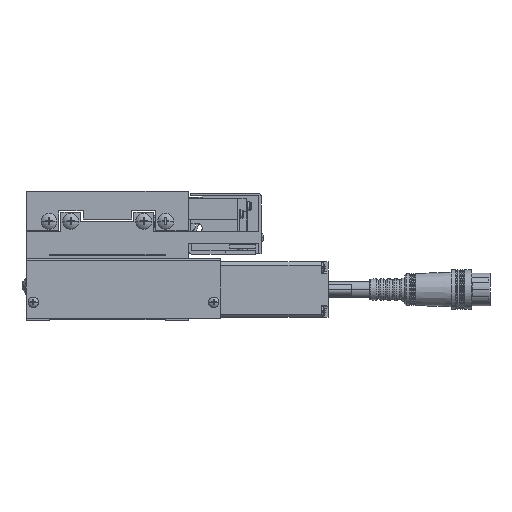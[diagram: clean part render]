
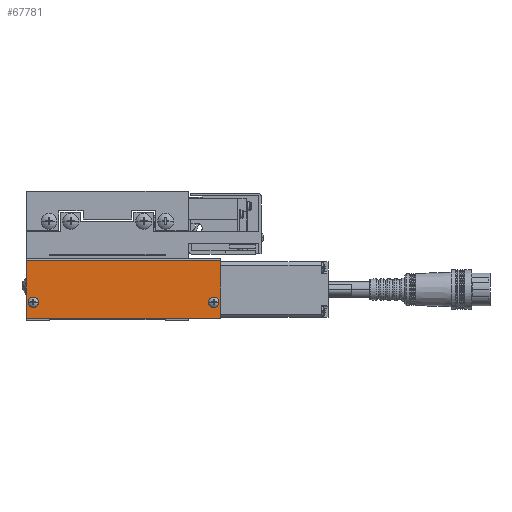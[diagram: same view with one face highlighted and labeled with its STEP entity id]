
A CAD part, front view. The second image highlights one B-rep face of the part: STEP entity #67781.
In plain terms, the highlighted planar face has unit normal (0, -1, 0) as drawn and (0, 1, 0) by its records, which use the part's own axes.
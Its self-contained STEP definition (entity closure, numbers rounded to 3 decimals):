
#133 = EDGE_LOOP ( 'NONE', ( #16907, #13809 ) ) ;
#610 = CIRCLE ( 'NONE', #32411, 2.25 ) ;
#2320 = VERTEX_POINT ( 'NONE', #5377 ) ;
#2431 = LINE ( 'NONE', #9825, #34398 ) ;
#4210 = DIRECTION ( 'NONE',  ( 0., 0., -1. ) ) ;
#4522 = CARTESIAN_POINT ( 'NONE',  ( 106.878, 95.741, 20.571 ) ) ;
#5377 = CARTESIAN_POINT ( 'NONE',  ( 106.128, 95.741, 1.571 ) ) ;
#6789 = CARTESIAN_POINT ( 'NONE',  ( 22.878, 95.741, -5.429 ) ) ;
#8030 = CARTESIAN_POINT ( 'NONE',  ( 106.878, 95.741, 19.571 ) ) ;
#9577 = EDGE_CURVE ( 'NONE', #61785, #39713, #2431, .T. ) ;
#9825 = CARTESIAN_POINT ( 'NONE',  ( 22.878, 95.741, 20.571 ) ) ;
#11272 = FACE_BOUND ( 'NONE', #58328, .T. ) ;
#11842 = DIRECTION ( 'NONE',  ( -1., 0., 0. ) ) ;
#13809 = ORIENTED_EDGE ( 'NONE', *, *, #30201, .F. ) ;
#14190 = VECTOR ( 'NONE', #66954, 1000. ) ;
#14468 = AXIS2_PLACEMENT_3D ( 'NONE', #66302, #51554, #15111 ) ;
#14687 = FACE_OUTER_BOUND ( 'NONE', #30187, .T. ) ;
#14729 = DIRECTION ( 'NONE',  ( -1., 0., 0. ) ) ;
#15111 = DIRECTION ( 'NONE',  ( -1., 0., 0. ) ) ;
#15377 = CARTESIAN_POINT ( 'NONE',  ( 22.878, 95.741, 19.571 ) ) ;
#16310 = ORIENTED_EDGE ( 'NONE', *, *, #9577, .F. ) ;
#16907 = ORIENTED_EDGE ( 'NONE', *, *, #49482, .F. ) ;
#17307 = LINE ( 'NONE', #4522, #37852 ) ;
#17477 = VERTEX_POINT ( 'NONE', #78041 ) ;
#17506 = CIRCLE ( 'NONE', #14468, 2.25 ) ;
#21122 = AXIS2_PLACEMENT_3D ( 'NONE', #64982, #23279, #73907 ) ;
#21147 = ORIENTED_EDGE ( 'NONE', *, *, #25205, .T. ) ;
#23279 = DIRECTION ( 'NONE',  ( 0., 1., 0. ) ) ;
#23319 = DIRECTION ( 'NONE',  ( -1., 0., 0. ) ) ;
#25205 = EDGE_CURVE ( 'NONE', #17477, #39713, #27269, .T. ) ;
#25298 = VERTEX_POINT ( 'NONE', #71360 ) ;
#27269 = LINE ( 'NONE', #77103, #36491 ) ;
#27981 = EDGE_CURVE ( 'NONE', #61785, #64397, #50796, .T. ) ;
#29547 = ORIENTED_EDGE ( 'NONE', *, *, #27981, .T. ) ;
#29783 = ORIENTED_EDGE ( 'NONE', *, *, #78579, .F. ) ;
#30187 = EDGE_LOOP ( 'NONE', ( #16310, #29547, #89818, #21147 ) ) ;
#30201 = EDGE_CURVE ( 'NONE', #2320, #86011, #40079, .T. ) ;
#32040 = CARTESIAN_POINT ( 'NONE',  ( 106.878, 95.741, 19.571 ) ) ;
#32411 = AXIS2_PLACEMENT_3D ( 'NONE', #51185, #58567, #14729 ) ;
#34398 = VECTOR ( 'NONE', #75434, 1000. ) ;
#36491 = VECTOR ( 'NONE', #11842, 1000. ) ;
#37852 = VECTOR ( 'NONE', #4210, 1000. ) ;
#39713 = VERTEX_POINT ( 'NONE', #6789 ) ;
#40079 = CIRCLE ( 'NONE', #93538, 2.25 ) ;
#44425 = CIRCLE ( 'NONE', #57177, 2.25 ) ;
#44459 = EDGE_CURVE ( 'NONE', #25298, #88828, #17506, .T. ) ;
#44833 = CARTESIAN_POINT ( 'NONE',  ( 25.878, 95.741, 1.571 ) ) ;
#49482 = EDGE_CURVE ( 'NONE', #86011, #2320, #610, .T. ) ;
#50796 = LINE ( 'NONE', #8030, #14190 ) ;
#51185 = CARTESIAN_POINT ( 'NONE',  ( 103.878, 95.741, 1.571 ) ) ;
#51554 = DIRECTION ( 'NONE',  ( 0., 1., 0. ) ) ;
#52749 = ORIENTED_EDGE ( 'NONE', *, *, #44459, .F. ) ;
#54165 = DIRECTION ( 'NONE',  ( 0., 1., 0. ) ) ;
#57177 = AXIS2_PLACEMENT_3D ( 'NONE', #44833, #60811, #23319 ) ;
#58328 = EDGE_LOOP ( 'NONE', ( #52749, #29783 ) ) ;
#58482 = EDGE_CURVE ( 'NONE', #64397, #17477, #17307, .T. ) ;
#58567 = DIRECTION ( 'NONE',  ( 0., 1., 0. ) ) ;
#60811 = DIRECTION ( 'NONE',  ( 0., 1., 0. ) ) ;
#61785 = VERTEX_POINT ( 'NONE', #15377 ) ;
#64397 = VERTEX_POINT ( 'NONE', #32040 ) ;
#64982 = CARTESIAN_POINT ( 'NONE',  ( 106.878, 95.741, 20.571 ) ) ;
#66302 = CARTESIAN_POINT ( 'NONE',  ( 25.878, 95.741, 1.571 ) ) ;
#66954 = DIRECTION ( 'NONE',  ( 1., 0., 0. ) ) ;
#67781 = ADVANCED_FACE ( 'NONE', ( #11272, #75457, #14687 ), #94097, .T. ) ;
#70554 = CARTESIAN_POINT ( 'NONE',  ( 28.128, 95.741, 1.571 ) ) ;
#71360 = CARTESIAN_POINT ( 'NONE',  ( 23.628, 95.741, 1.571 ) ) ;
#73907 = DIRECTION ( 'NONE',  ( 0., 0., -1. ) ) ;
#75434 = DIRECTION ( 'NONE',  ( 0., 0., -1. ) ) ;
#75457 = FACE_BOUND ( 'NONE', #133, .T. ) ;
#76867 = CARTESIAN_POINT ( 'NONE',  ( 103.878, 95.741, 1.571 ) ) ;
#77103 = CARTESIAN_POINT ( 'NONE',  ( 106.878, 95.741, -5.429 ) ) ;
#77777 = CARTESIAN_POINT ( 'NONE',  ( 101.628, 95.741, 1.571 ) ) ;
#78041 = CARTESIAN_POINT ( 'NONE',  ( 106.878, 95.741, -5.429 ) ) ;
#78579 = EDGE_CURVE ( 'NONE', #88828, #25298, #44425, .T. ) ;
#83274 = DIRECTION ( 'NONE',  ( -1., 0., 0. ) ) ;
#86011 = VERTEX_POINT ( 'NONE', #77777 ) ;
#88828 = VERTEX_POINT ( 'NONE', #70554 ) ;
#89818 = ORIENTED_EDGE ( 'NONE', *, *, #58482, .T. ) ;
#93538 = AXIS2_PLACEMENT_3D ( 'NONE', #76867, #54165, #83274 ) ;
#94097 = PLANE ( 'NONE',  #21122 ) ;
